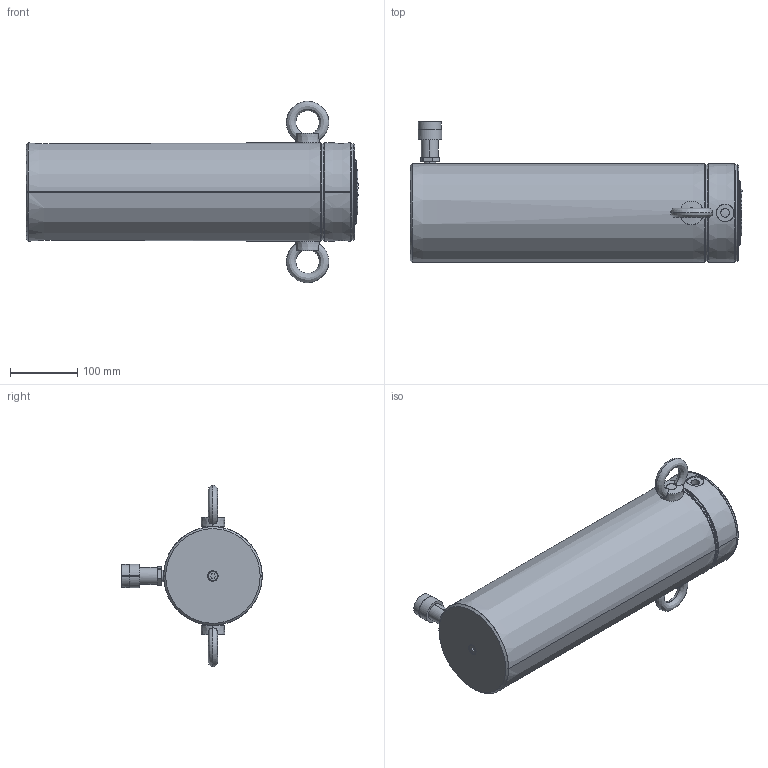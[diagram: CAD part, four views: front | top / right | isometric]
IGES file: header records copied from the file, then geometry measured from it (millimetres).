
Start section:  PTC IGES file: RC-7513.igs
Global section: file name: RC-7513.igs; native system: Creo Parametric by PTC Inc.; preprocessor: 2018400; author: mike.ward; organization: Unknown; date: 20200129.090929; units: millimetre
Bounding box: 492.06 x 208.09 x 268.91 mm (x, y, z)
Surface area: 709324.8 mm2 (no closed solid volume)
Topology: 0 solids, 0 shells, 386 faces, 1660 edges, 1654 vertices
Faces by surface type: revolution 290, bspline 96
